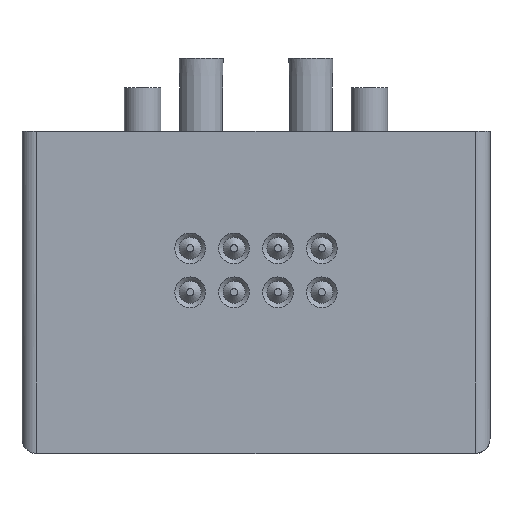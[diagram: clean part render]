
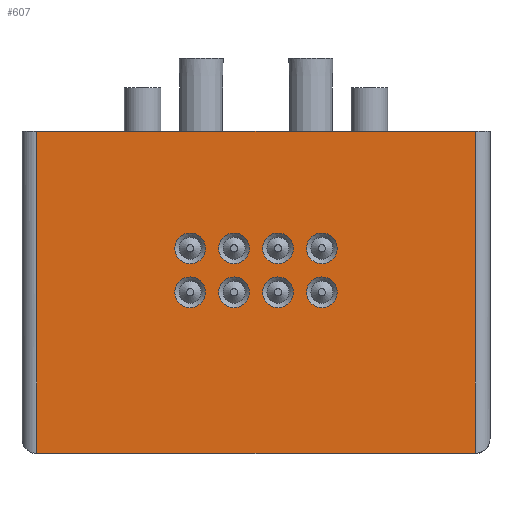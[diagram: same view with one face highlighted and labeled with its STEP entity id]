
A CAD part, top view. The second image highlights one B-rep face of the part: STEP entity #607.
In plain terms, the highlighted planar face has unit normal (0, 0, 1).
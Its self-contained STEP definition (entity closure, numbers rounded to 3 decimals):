
#607=ADVANCED_FACE('',(#1384,#1385,#1386,#1387,#1388,#1389,#1390,#1391,#1392),#1393,.T.);
#1384=FACE_BOUND('',#2325,.T.);
#1385=FACE_BOUND('',#2326,.T.);
#1386=FACE_BOUND('',#2327,.T.);
#1387=FACE_BOUND('',#2328,.T.);
#1388=FACE_BOUND('',#2329,.T.);
#1389=FACE_BOUND('',#2330,.T.);
#1390=FACE_BOUND('',#2331,.T.);
#1391=FACE_BOUND('',#2332,.T.);
#1392=FACE_OUTER_BOUND('',#2333,.T.);
#1393=PLANE('',#2334);
#2325=EDGE_LOOP('',(#3980));
#2326=EDGE_LOOP('',(#3981));
#2327=EDGE_LOOP('',(#3982));
#2328=EDGE_LOOP('',(#3983));
#2329=EDGE_LOOP('',(#3984));
#2330=EDGE_LOOP('',(#3985));
#2331=EDGE_LOOP('',(#3986));
#2332=EDGE_LOOP('',(#3987));
#2333=EDGE_LOOP('',(#3988,#3989,#3990,#3991));
#2334=AXIS2_PLACEMENT_3D('',#3992,#3993,#3994);
#3980=ORIENTED_EDGE('',*,*,#5443,.T.);
#3981=ORIENTED_EDGE('',*,*,#5055,.T.);
#3982=ORIENTED_EDGE('',*,*,#5052,.T.);
#3983=ORIENTED_EDGE('',*,*,#5466,.T.);
#3984=ORIENTED_EDGE('',*,*,#5049,.T.);
#3985=ORIENTED_EDGE('',*,*,#5492,.T.);
#3986=ORIENTED_EDGE('',*,*,#5039,.T.);
#3987=ORIENTED_EDGE('',*,*,#5394,.T.);
#3988=ORIENTED_EDGE('',*,*,#5033,.T.);
#3989=ORIENTED_EDGE('',*,*,#5493,.T.);
#3990=ORIENTED_EDGE('',*,*,#5211,.T.);
#3991=ORIENTED_EDGE('',*,*,#5328,.T.);
#3992=CARTESIAN_POINT('',(-16.0,-22.0,5.8));
#3993=DIRECTION('',(0.0,0.0,1.0));
#3994=DIRECTION('',(1.0,0.0,0.0));
#5033=EDGE_CURVE('',#5914,#5912,#5915,.T.);
#5039=EDGE_CURVE('',#5924,#5924,#5925,.T.);
#5049=EDGE_CURVE('',#5942,#5942,#5943,.T.);
#5052=EDGE_CURVE('',#5947,#5947,#5948,.T.);
#5055=EDGE_CURVE('',#5952,#5952,#5953,.T.);
#5211=EDGE_CURVE('',#6191,#6189,#6192,.T.);
#5328=EDGE_CURVE('',#6189,#5914,#6370,.T.);
#5394=EDGE_CURVE('',#6468,#6468,#6469,.T.);
#5443=EDGE_CURVE('',#6525,#6525,#6526,.T.);
#5466=EDGE_CURVE('',#6553,#6553,#6554,.T.);
#5492=EDGE_CURVE('',#6586,#6586,#6587,.T.);
#5493=EDGE_CURVE('',#5912,#6191,#6588,.T.);
#5912=VERTEX_POINT('',#7188);
#5914=VERTEX_POINT('',#7191);
#5915=LINE('',#7192,#7193);
#5924=VERTEX_POINT('',#7204);
#5925=CIRCLE('',#7205,1.05);
#5942=VERTEX_POINT('',#7226);
#5943=CIRCLE('',#7227,1.05);
#5947=VERTEX_POINT('',#7231);
#5948=CIRCLE('',#7232,1.05);
#5952=VERTEX_POINT('',#7236);
#5953=CIRCLE('',#7237,1.05);
#6189=VERTEX_POINT('',#7549);
#6191=VERTEX_POINT('',#7551);
#6192=LINE('',#7552,#7553);
#6370=LINE('',#7799,#7800);
#6468=VERTEX_POINT('',#7937);
#6469=CIRCLE('',#7938,1.05);
#6525=VERTEX_POINT('',#8014);
#6526=CIRCLE('',#8015,1.05);
#6553=VERTEX_POINT('',#8046);
#6554=CIRCLE('',#8047,1.05);
#6586=VERTEX_POINT('',#8081);
#6587=CIRCLE('',#8082,1.05);
#6588=LINE('',#8083,#8084);
#7188=CARTESIAN_POINT('',(15.0,-22.0,5.8));
#7191=CARTESIAN_POINT('',(-15.0,-22.0,5.8));
#7192=CARTESIAN_POINT('',(-16.0,-22.0,5.8));
#7193=VECTOR('',#8842,1.0);
#7204=CARTESIAN_POINT('',(-0.45,-8.,5.8));
#7205=AXIS2_PLACEMENT_3D('',#8851,#8852,#8853);
#7226=CARTESIAN_POINT('',(5.55,-8.,5.8));
#7227=AXIS2_PLACEMENT_3D('',#8867,#8868,#8869);
#7231=CARTESIAN_POINT('',(2.55,-11.0,5.8));
#7232=AXIS2_PLACEMENT_3D('',#8873,#8874,#8875);
#7236=CARTESIAN_POINT('',(-0.45,-11.0,5.8));
#7237=AXIS2_PLACEMENT_3D('',#8879,#8880,#8881);
#7549=CARTESIAN_POINT('',(-15.0,0.,5.8));
#7551=CARTESIAN_POINT('',(15.0,0.,5.8));
#7552=CARTESIAN_POINT('',(16.0,0.,5.8));
#7553=VECTOR('',#9060,1.0);
#7799=CARTESIAN_POINT('',(-15.0,-22.0,5.8));
#7800=VECTOR('',#9189,1.0);
#7937=CARTESIAN_POINT('',(-3.45,-8.,5.8));
#7938=AXIS2_PLACEMENT_3D('',#9253,#9254,#9255);
#8014=CARTESIAN_POINT('',(-3.45,-11.0,5.8));
#8015=AXIS2_PLACEMENT_3D('',#9294,#9295,#9296);
#8046=CARTESIAN_POINT('',(5.55,-11.0,5.8));
#8047=AXIS2_PLACEMENT_3D('',#9313,#9314,#9315);
#8081=CARTESIAN_POINT('',(2.55,-8.,5.8));
#8082=AXIS2_PLACEMENT_3D('',#9339,#9340,#9341);
#8083=CARTESIAN_POINT('',(15.0,-5.,5.8));
#8084=VECTOR('',#9342,1.0);
#8842=DIRECTION('',(1.0,0.0,0.0));
#8851=CARTESIAN_POINT('',(-1.5,-8.,5.8));
#8852=DIRECTION('',(0.0,0.0,-1.0));
#8853=DIRECTION('',(1.0,0.0,0.0));
#8867=CARTESIAN_POINT('',(4.5,-8.,5.8));
#8868=DIRECTION('',(0.0,0.0,-1.0));
#8869=DIRECTION('',(1.0,0.0,0.0));
#8873=CARTESIAN_POINT('',(1.5,-11.0,5.8));
#8874=DIRECTION('',(0.0,0.0,-1.0));
#8875=DIRECTION('',(1.0,0.0,0.0));
#8879=CARTESIAN_POINT('',(-1.5,-11.0,5.8));
#8880=DIRECTION('',(0.0,0.0,-1.0));
#8881=DIRECTION('',(1.0,0.0,0.0));
#9060=DIRECTION('',(-1.0,0.0,0.0));
#9189=DIRECTION('',(0.0,-1.0,0.0));
#9253=CARTESIAN_POINT('',(-4.5,-8.,5.8));
#9254=DIRECTION('',(0.0,0.0,-1.0));
#9255=DIRECTION('',(1.0,0.0,0.0));
#9294=CARTESIAN_POINT('',(-4.5,-11.0,5.8));
#9295=DIRECTION('',(0.0,0.0,-1.0));
#9296=DIRECTION('',(1.0,0.0,0.0));
#9313=CARTESIAN_POINT('',(4.5,-11.0,5.8));
#9314=DIRECTION('',(0.0,0.0,-1.0));
#9315=DIRECTION('',(1.0,0.0,0.0));
#9339=CARTESIAN_POINT('',(1.5,-8.,5.8));
#9340=DIRECTION('',(0.0,0.0,-1.0));
#9341=DIRECTION('',(1.0,0.0,0.0));
#9342=DIRECTION('',(0.0,1.0,0.0));
